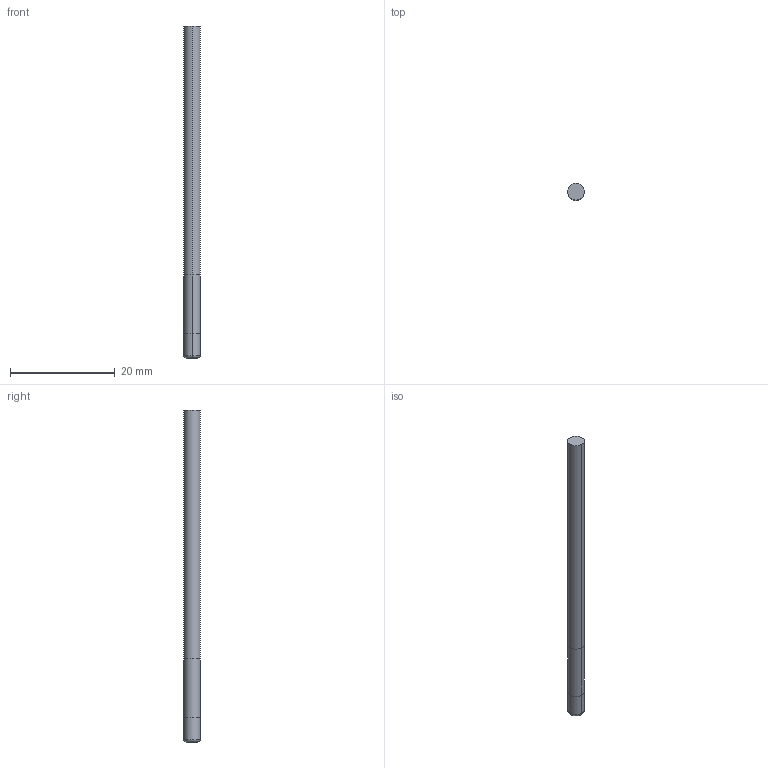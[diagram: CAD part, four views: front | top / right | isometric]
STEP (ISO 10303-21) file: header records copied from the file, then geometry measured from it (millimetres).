
FILE_DESCRIPTION((' '),'2;1');
FILE_NAME( '3MVS1250R.020N5AH.stp', '2026-01-21T19:26:50', (' '), ('--- Datakit www.datakit.com---'), ' Datakit CrossCadWare V2025.4 Sep 19 2025', 'Mastercam 2027', ' ');
FILE_SCHEMA(('AUTOMOTIVE_DESIGN { 1 0 10303 214 1 1 1 1 }'));
Length unit declared in the file: inch
Products named in the file (1): 3MVS1250R
Bounding box: 3.17 x 3.17 x 63.5 mm (x, y, z)
Volume: 502.2 mm3; surface area: 646.9 mm2
Topology: 1 solids, 1 shells, 10 faces, 18 edges, 10 vertices
Faces by surface type: cylinder 6, plane 2, torus 2
Entity records: 325 total; most frequent: DIRECTION 60, CARTESIAN_POINT 43, ORIENTED_EDGE 36, AXIS2_PLACEMENT_3D 27, EDGE_CURVE 18, CIRCLE 12, VERTEX_POINT 10, EDGE_LOOP 10
